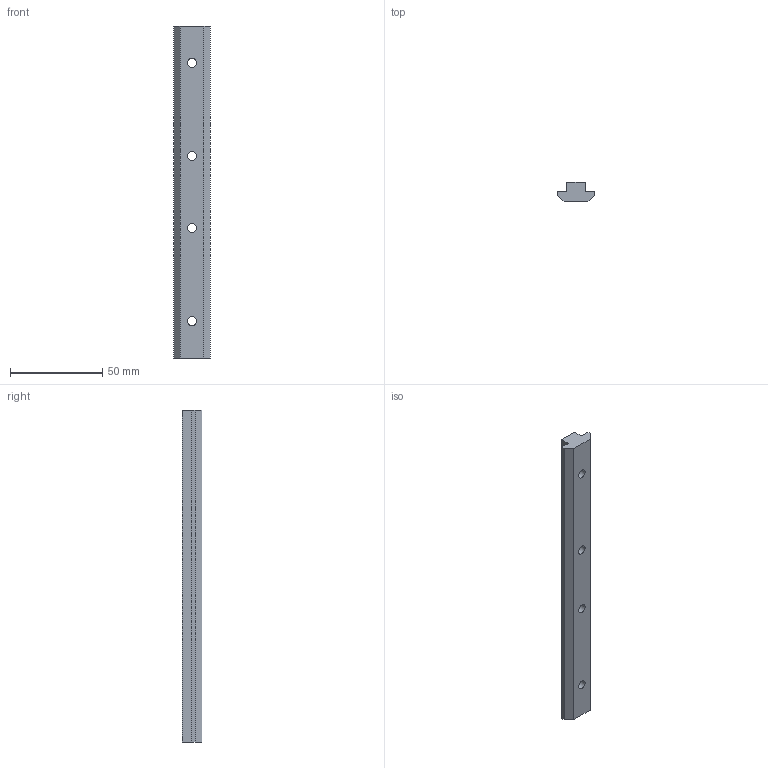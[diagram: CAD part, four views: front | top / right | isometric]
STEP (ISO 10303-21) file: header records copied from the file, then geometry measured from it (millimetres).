
FILE_DESCRIPTION((''),'2;1');
FILE_NAME('E:\catalogue and flyer\Profile catalogue 2015\Accessories JE info\Accessories-JE step file 31MAr16\JE-Joint Connector-10.stp','2016-04-07T09:03:45',('h029'),(''),'Autodesk Inventor 11','Autodesk Inventor 11','');
FILE_SCHEMA(('AUTOMOTIVE_DESIGN { 1 0 10303 214 1 1 1 1 }'));
Length unit declared in the file: millimetre
Products named in the file (1): JE-Joint Connector-10
Bounding box: 20 x 10.5 x 180 mm (x, y, z)
Volume: 25797.6 mm3; surface area: 11034.1 mm2
Topology: 1 solids, 1 shells, 16 faces, 46 edges, 32 vertices
Faces by surface type: plane 12, bspline 4
Entity records: 565 total; most frequent: CARTESIAN_POINT 151, ORIENTED_EDGE 76, DIRECTION 72, EDGE_CURVE 38, VECTOR 30, LINE 30, VERTEX_POINT 28, EDGE_LOOP 28
